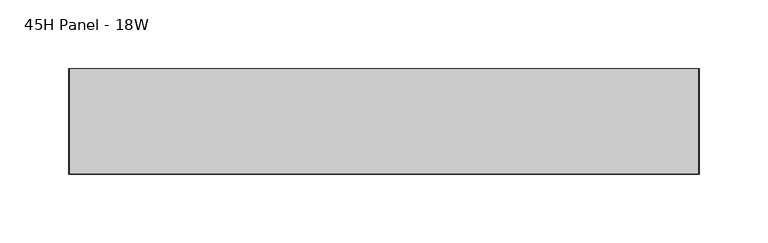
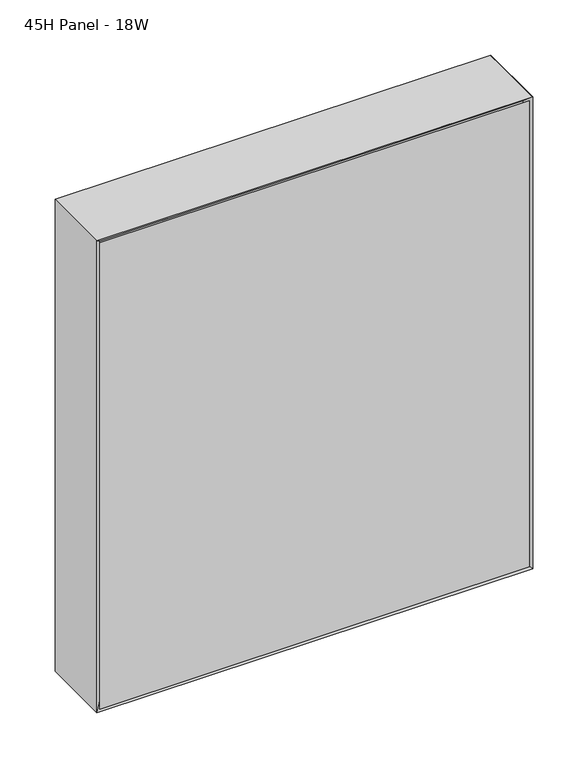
"""IFC4 building model written with IfcOpenShell, lengths in millimetres: furniture geometry, Steelcase - Montage - Frame - 20H - Enhanced Standard - Single Stack-On : 45H Panel - 18W."""

from ifc_helpers import new_model, si_unit, frame, origin, place, context, project, spatial, polyline, outline, extrude, faceted_brep, source, transform, mapped, element, save


def furniture_45h_panel_18w_f21fc878(model_context):
    return source(origin(), model_context, "Body", "SolidModel", [
        faceted_brep([(447.6750027, 31.7500194, 1650.9999516), (9.5250028, 31.7500194, 1650.9999516), (9.5250028, 31.7500194, 1146.175), (447.6750027, 31.7500194, 1146.175), (454.025, 38.1000194, 1657.3499516), (454.025, 38.1000194, 1139.825), (3.175, 38.1000194, 1139.825), (3.175, 38.1000194, 1657.3499516)], [[[0, 1, 2, 3]], [[4, 5, 6, 7]], [[4, 0, 3, 5]], [[5, 3, 2, 6]], [[6, 2, 1, 7]], [[7, 1, 0, 4]]]),
        faceted_brep([(447.6750027, -31.7500194, 1650.9999516), (447.6750027, -31.7500194, 1146.175), (9.5250028, -31.7500194, 1146.175), (9.5250028, -31.7500194, 1650.9999516), (454.025, -38.1000194, 1657.3499516), (3.175, -38.1000194, 1657.3499516), (3.175, -38.1000194, 1139.825), (454.025, -38.1000194, 1139.825)], [[[0, 1, 2, 3]], [[4, 5, 6, 7]], [[4, 7, 1, 0]], [[7, 6, 2, 1]], [[6, 5, 3, 2]], [[5, 4, 0, 3]]]),
        faceted_brep([(457.2, -38.1000015, 1136.65), (457.2, 38.1000015, 1136.65), (457.2, 38.1000015, 1660.5249516), (457.2, -38.1000106, 1660.5249515), (0.0, 38.1000015, 1136.65), (0.0, -38.1000015, 1136.65), (0.0, -38.1000015, 1660.5249516), (0.0, 38.1000015, 1660.5249516), (6.3500484, 31.749953, 1143.0000484), (450.8499879, 31.749953, 1143.0000484), (6.35, -31.749953, 1143.0000484), (450.8499879, -31.749953, 1143.0000484), (6.3500165, 31.749985, 1654.174935), (6.3500006, -31.7500009, 1654.1749031), (450.8499879, -31.7499979, 1654.1749031), (450.8499879, 31.7499889, 1654.1749394)], [[[0, 1, 2, 3]], [[4, 5, 6, 7]], [[1, 0, 5, 4]], [[1, 4, 8, 9]], [[9, 8, 10, 11]], [[5, 0, 11, 10]], [[4, 7, 12, 8]], [[6, 5, 10, 13]], [[10, 8, 12, 13]], [[9, 11, 14, 15]], [[0, 3, 14, 11]], [[2, 1, 9, 15]], [[3, 2, 15, 14]], [[7, 6, 13, 12]]]),
        faceted_brep([(457.2, -38.1000015, 1660.5249516), (0.0, -38.1000015, 1660.5249516), (6.3500484, -31.749953, 1654.1749031), (450.8499516, -31.749953, 1654.1749031), (6.3500484, 31.749953, 1654.1749031), (450.8499516, 31.749953, 1654.1749031), (0.0, 38.1000015, 1660.5249516), (457.2, 38.1000015, 1660.5249516)], [[[0, 1, 2, 3]], [[3, 2, 4, 5]], [[6, 7, 5, 4]], [[1, 0, 7, 6]], [[2, 1, 6, 4]], [[0, 3, 5, 7]]]),
        extrude(outline(polyline([(450.8499879, 31.7500016), (450.8499879, -31.7499985), (6.35, -31.7499985), (6.35, 31.7500016), (450.8499879, 31.7500016)])), frame((0.0, 0.0, 1142.9952145), z_axis=(0.0, 0.0, 1.0), x_axis=(1.0, 0.0, 0.0)), (0.0, 0.0, 1.0), 511.1796886),
    ])


if __name__ == "__main__":
    model = new_model("IFC4")
    model_context = context("Model", 3, world=origin())
    ifc_project = project(units=[si_unit("LENGTHUNIT", "METRE", prefix="MILLI")], contexts=[model_context])
    site = spatial("IfcSite", under=ifc_project)
    building = spatial("IfcBuilding", under=site)
    placement = place(None, origin())
    furniture_45h_panel_18w_shape = furniture_45h_panel_18w_f21fc878(model_context)
    element("IfcFurniture", 1, ObjectType="Steelcase - Montage - Frame - 20H - Enhanced Standard - Single Stack-On : 45H Panel - 18W", at=placement, inside=building, context=model_context, shape_type="MappedRepresentation", body=[
        mapped(furniture_45h_panel_18w_shape, transform((0.0, 0.0, 0.0), x_axis=(1.0, 0.0, 0.0), y_axis=(0.0, 1.0, 0.0), z_axis=(0.0, 0.0, 1.0))),
    ])
    save(model, "model.ifc")
